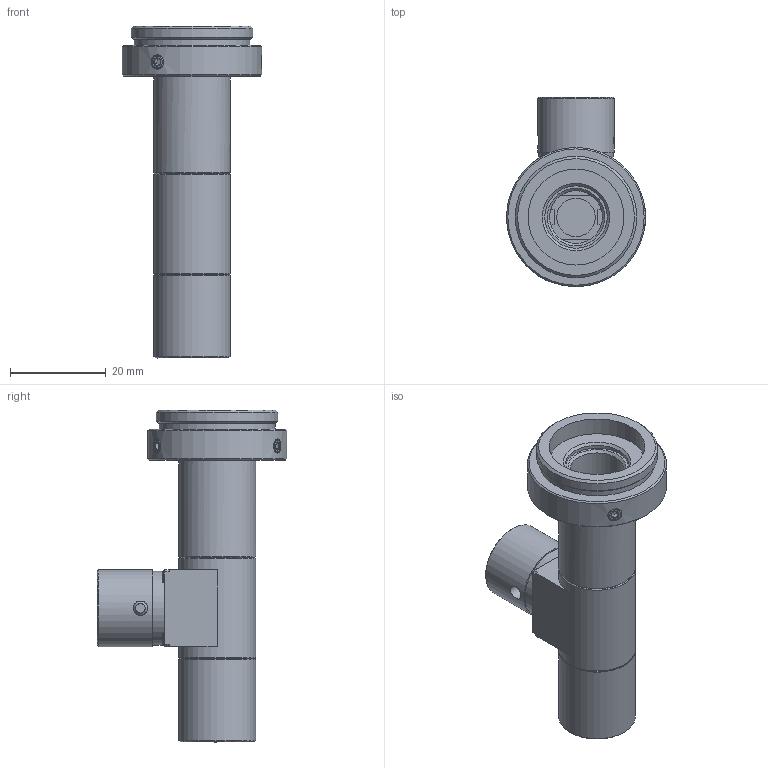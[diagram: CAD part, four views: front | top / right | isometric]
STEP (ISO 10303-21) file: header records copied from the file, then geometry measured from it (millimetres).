
FILE_DESCRIPTION(('STEP AP214'),'1');
FILE_NAME('RTK-4F-65.stp','2026-03-16T06:19:30',(' '),(' '),'Spatial InterOp 3D',' ',' ');
FILE_SCHEMA(('AUTOMOTIVE_DESIGN { 1 0 10303 214 1 1 1 1 }'));
Length unit declared in the file: metre
Products named in the file (2): RTK-4F-65; Component1
Assembly tree (1 placements, depth 2):
  RTK-4F-65
    Component1
Bounding box: 29 x 39.5 x 69.17 mm (x, y, z)
Volume: 12271.6 mm3; surface area: 11152.6 mm2
Topology: 1 solids, 15 shells, 353 faces, 844 edges, 551 vertices
Faces by surface type: plane 164, cone 95, cylinder 74, sphere 9, torus 8, bspline 3
Full cylindrical faces by diameter (mm): 1.7 x8, 1.8 x4, 2.5 x3, 3 x3, 6.5 x1, 8 x2, 9 x1, 10 x1, 11 x1, 12 x2, 12.7 x1, 13 x2, 13.4 x1, 13.5 x4, 13.7 x1, 13.9 x1, 14 x2, 14.2 x3, 15.5 x1, 16 x6, 20 x1, 24.12 x1, 25.32 x1, 29 x1
Entity records: 12792 total; most frequent: CARTESIAN_POINT 2470, DIRECTION 1592, ORIENTED_EDGE 1328, AXIS2_PLACEMENT_3D 672, EDGE_CURVE 664, EDGE_LOOP 522, VERTEX_POINT 497, FACE_OUTER_BOUND 415
